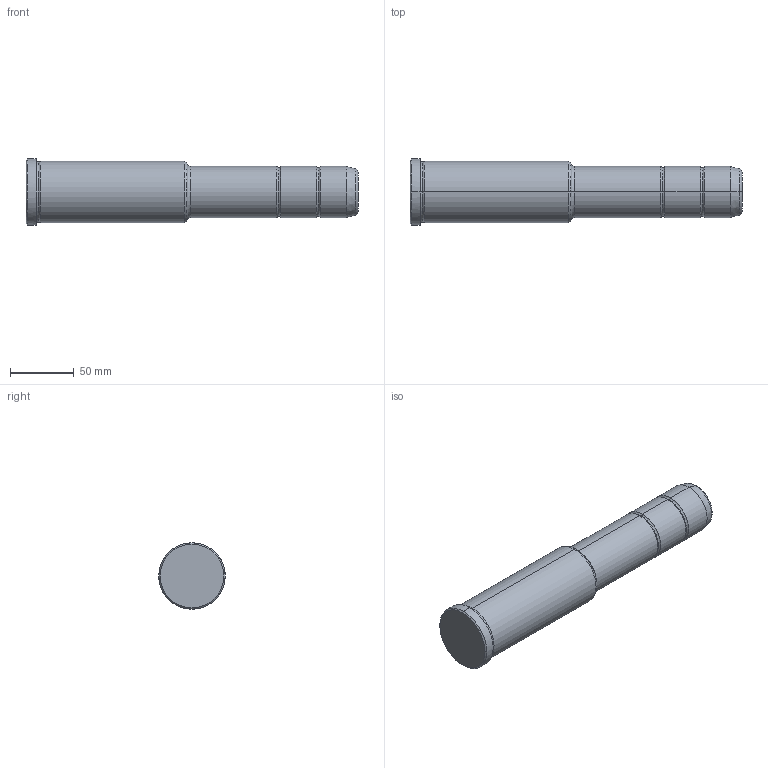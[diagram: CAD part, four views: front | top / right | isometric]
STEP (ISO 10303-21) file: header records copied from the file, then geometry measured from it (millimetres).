
FILE_DESCRIPTION(('CATIA V5 STEP Exchange'),'2;1');
FILE_NAME('C:\Users\Utente\Desktop\IO LAVORO\3D X SITO CF\X SITO\PLASTICA\351\351-40X126X260.stp','2021-11-03T19:13:03+00:00',('none'),('none'),'CATIA Version 5 Release 20 GA (IN-10)','CATIA V5 STEP AP203','none');
FILE_SCHEMA(('CONFIG_CONTROL_DESIGN'));
Length unit declared in the file: millimetre
Products named in the file (1): 351-40X126X260
Bounding box: 260 x 52 x 52 mm (x, y, z)
Volume: 396723 mm3; surface area: 39635.2 mm2
Topology: 1 solids, 1 shells, 36 faces, 102 edges, 70 vertices
Faces by surface type: torus 16, cylinder 10, cone 6, plane 4
Entity records: 1292 total; most frequent: CARTESIAN_POINT 321, ORIENTED_EDGE 204, DIRECTION 166, AXIS2_PLACEMENT_3D 115, EDGE_CURVE 102, CIRCLE 78, VERTEX_POINT 70, EDGE_LOOP 38
